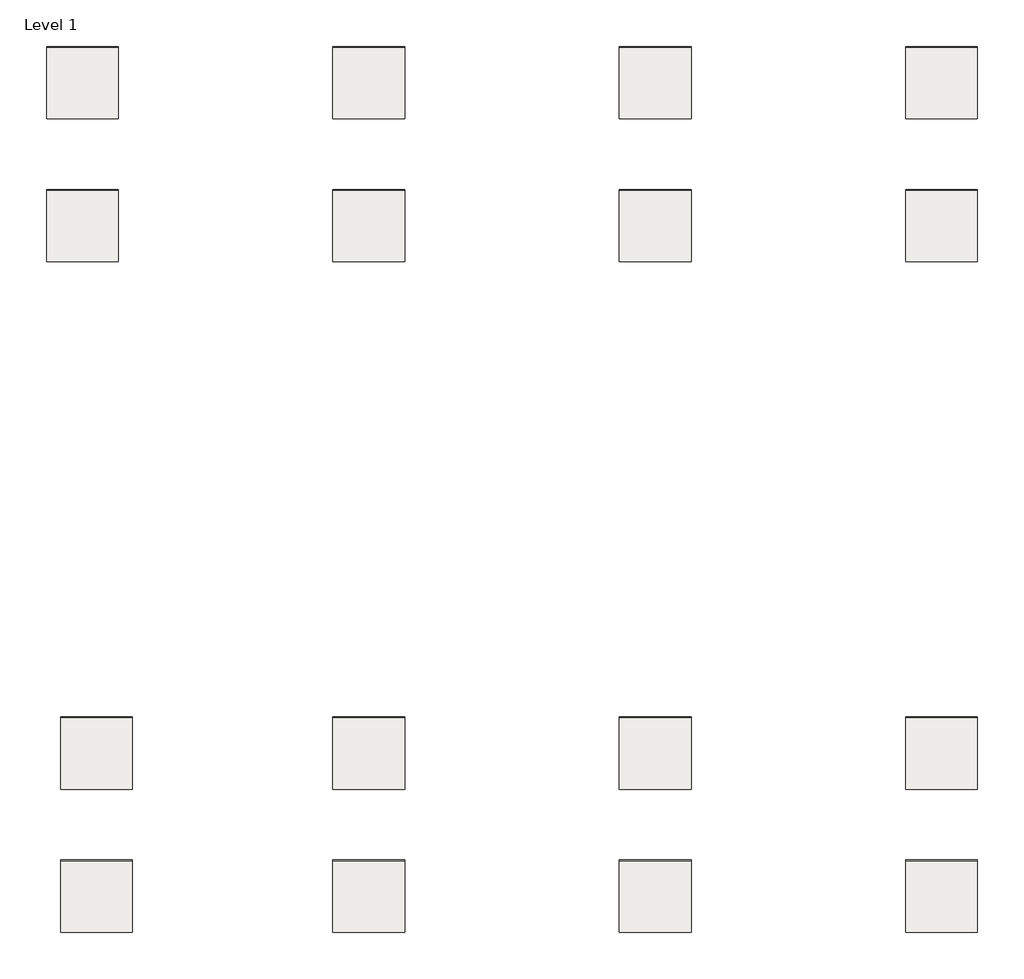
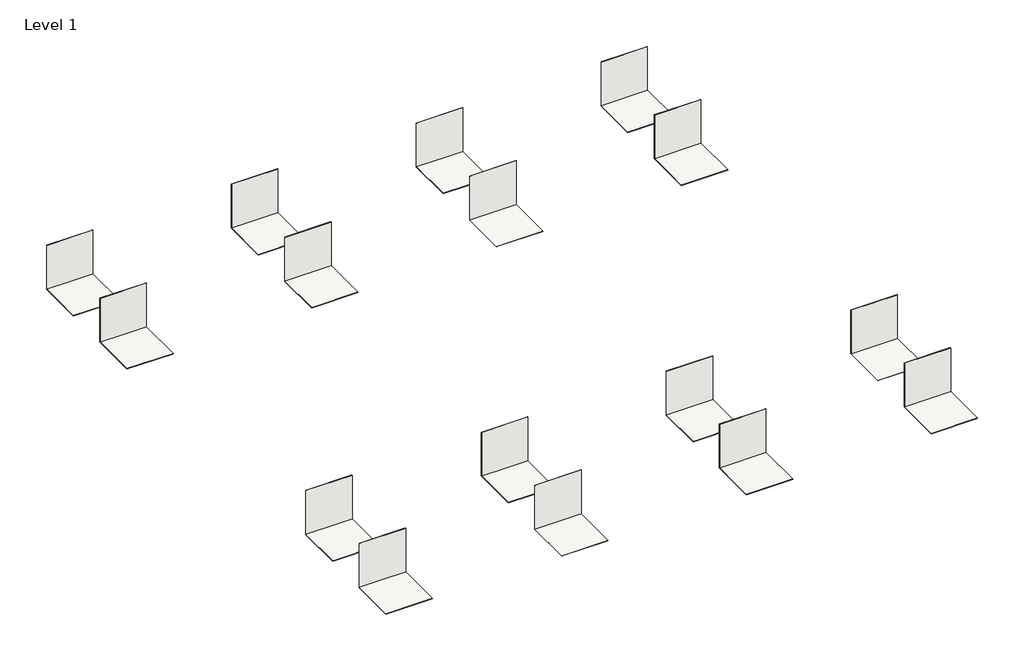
# One storey: 32 coverings.
"""IFC4 building model written with IfcOpenShell, lengths in millimetres."""

from ifc_helpers import new_model, si_unit, frame, origin, origin_with_axes, place, context, project, spatial, polyline, outline, extrude, element, save

model = new_model("IFC4")

# Units and contexts
model_context = context("Model", 3, world=origin())
ifc_project = project(units=[si_unit("LENGTHUNIT", "METRE", prefix="MILLI")], contexts=[model_context])

# Site, building, storey
site = spatial("IfcSite", under=ifc_project)
building = spatial("IfcBuilding", under=site)
storey = spatial("IfcBuildingStorey", under=building, Name="Level 1", Elevation=0.0)

# Coverings
placement = place(None, origin())
element("IfcCovering", 1, ObjectType="REVIGRES-ELEMENTS-BASE-59.2x59.2-SOFT-MIST", at=placement, inside=storey, context=model_context, shape_type="SweptSolid", body=[
    extrude(outline(polyline([(12778.642714, -3786.4559027), (11778.642714, -3786.4559027), (11778.642714, -3777.9559027), (12778.642714, -3777.9559027), (12778.642714, -3786.4559027)])), origin_with_axes(), (0.0, 0.0, 1.0), 1000.0),
])
element("IfcCovering", 2, ObjectType="REVIGRES-ELEMENTS-BASE-59.2x59.2-SOFT-MIST", at=placement, inside=storey, context=model_context, shape_type="SweptSolid", body=[
    extrude(outline(polyline([(12778.642714, -3786.4559027), (12778.642714, -4786.4559027), (11778.642714, -4786.4559027), (11778.642714, -3786.4559027), (12778.642714, -3786.4559027)])), frame((0.0, 0.0, -8.5), z_axis=(0.0, 0.0, 1.0), x_axis=(1.0, 0.0, 0.0)), (0.0, 0.0, 1.0), 8.5),
])
element("IfcCovering", 3, ObjectType="REVIGRES-ELEMENTS-BASE-59.2x59.2-SOFT-SMOKE", at=placement, inside=storey, context=model_context, shape_type="SweptSolid", body=[
    extrude(outline(polyline([(16778.642714, -3786.4559027), (15778.642714, -3786.4559027), (15778.642714, -3777.9559027), (16778.642714, -3777.9559027), (16778.642714, -3786.4559027)])), origin_with_axes(), (0.0, 0.0, 1.0), 1000.0),
])
element("IfcCovering", 4, ObjectType="REVIGRES-ELEMENTS-BASE-59.2x59.2-SOFT-SMOKE", at=placement, inside=storey, context=model_context, shape_type="SweptSolid", body=[
    extrude(outline(polyline([(16778.642714, -3786.4559027), (16778.642714, -4786.4559027), (15778.642714, -4786.4559027), (15778.642714, -3786.4559027), (16778.642714, -3786.4559027)])), frame((0.0, 0.0, -8.5), z_axis=(0.0, 0.0, 1.0), x_axis=(1.0, 0.0, 0.0)), (0.0, 0.0, 1.0), 8.5),
])
element("IfcCovering", 5, ObjectType="REVIGRES-ELEMENTS-BASE-88.9x88.9-SOFT-MIST", at=placement, inside=storey, context=model_context, shape_type="SweptSolid", body=[
    extrude(outline(polyline([(12778.642714, -5786.4559027), (11778.642714, -5786.4559027), (11778.642714, -5775.9559027), (12778.642714, -5775.9559027), (12778.642714, -5786.4559027)])), origin_with_axes(), (0.0, 0.0, 1.0), 1000.0),
])
element("IfcCovering", 6, ObjectType="REVIGRES-ELEMENTS-BASE-88.9x88.9-SOFT-MIST", at=placement, inside=storey, context=model_context, shape_type="SweptSolid", body=[
    extrude(outline(polyline([(12778.642714, -5786.4559027), (12778.642714, -6786.4559027), (11778.642714, -6786.4559027), (11778.642714, -5786.4559027), (12778.642714, -5786.4559027)])), frame((0.0, 0.0, -10.5), z_axis=(0.0, 0.0, 1.0), x_axis=(1.0, 0.0, 0.0)), (0.0, 0.0, 1.0), 10.5),
])
element("IfcCovering", 7, ObjectType="REVIGRES-ELEMENTS-BASE-88.9x88.9-SOFT-SMOKE", at=placement, inside=storey, context=model_context, shape_type="SweptSolid", body=[
    extrude(outline(polyline([(16778.642714, -5786.4559027), (15778.642714, -5786.4559027), (15778.642714, -5775.9559027), (16778.642714, -5775.9559027), (16778.642714, -5786.4559027)])), origin_with_axes(), (0.0, 0.0, 1.0), 1000.0),
])
element("IfcCovering", 8, ObjectType="REVIGRES-ELEMENTS-BASE-88.9x88.9-SOFT-SMOKE", at=placement, inside=storey, context=model_context, shape_type="SweptSolid", body=[
    extrude(outline(polyline([(16778.642714, -5786.4559027), (16778.642714, -6786.4559027), (15778.642714, -6786.4559027), (15778.642714, -5786.4559027), (16778.642714, -5786.4559027)])), frame((0.0, 0.0, -10.5), z_axis=(0.0, 0.0, 1.0), x_axis=(1.0, 0.0, 0.0)), (0.0, 0.0, 1.0), 10.5),
])
element("IfcCovering", 9, ObjectType="REVIGRES-ELEMENTS-BASE-59.2x59.2-ANTISLIPRECT-MIST", at=placement, inside=storey, context=model_context, shape_type="SweptSolid", body=[
    extrude(outline(polyline([(12778.642714, -13154.275145), (11778.642714, -13154.275145), (11778.642714, -13145.775145), (12778.642714, -13145.775145), (12778.642714, -13154.275145)])), origin_with_axes(), (0.0, 0.0, 1.0), 1000.0),
])
element("IfcCovering", 10, ObjectType="REVIGRES-ELEMENTS-BASE-59.2x59.2-ANTISLIPRECT-MIST", at=placement, inside=storey, context=model_context, shape_type="SweptSolid", body=[
    extrude(outline(polyline([(12778.642714, -13154.275145), (12778.642714, -14154.275145), (11778.642714, -14154.275145), (11778.642714, -13154.275145), (12778.642714, -13154.275145)])), frame((0.0, 0.0, -8.5), z_axis=(0.0, 0.0, 1.0), x_axis=(1.0, 0.0, 0.0)), (0.0, 0.0, 1.0), 8.5),
])
element("IfcCovering", 11, ObjectType="REVIGRES-ELEMENTS-BASE-59.2x59.2-ANTISLIPRECT-SMOKE", at=placement, inside=storey, context=model_context, shape_type="SweptSolid", body=[
    extrude(outline(polyline([(16778.642714, -13154.275145), (15778.642714, -13154.275145), (15778.642714, -13145.775145), (16778.642714, -13145.775145), (16778.642714, -13154.275145)])), origin_with_axes(), (0.0, 0.0, 1.0), 1000.0),
])
element("IfcCovering", 12, ObjectType="REVIGRES-ELEMENTS-BASE-59.2x59.2-ANTISLIPRECT-SMOKE", at=placement, inside=storey, context=model_context, shape_type="SweptSolid", body=[
    extrude(outline(polyline([(16778.642714, -13154.275145), (16778.642714, -14154.275145), (15778.642714, -14154.275145), (15778.642714, -13154.275145), (16778.642714, -13154.275145)])), frame((0.0, 0.0, -8.5), z_axis=(0.0, 0.0, 1.0), x_axis=(1.0, 0.0, 0.0)), (0.0, 0.0, 1.0), 8.5),
])
element("IfcCovering", 13, ObjectType="REVIGRES-ELEMENTS-BASE-88.9x88.9-ANTISLIPRECT-MIST", at=placement, inside=storey, context=model_context, shape_type="SweptSolid", body=[
    extrude(outline(polyline([(12778.642714, -15154.275145), (11778.642714, -15154.275145), (11778.642714, -15143.775145), (12778.642714, -15143.775145), (12778.642714, -15154.275145)])), origin_with_axes(), (0.0, 0.0, 1.0), 1000.0),
])
element("IfcCovering", 14, ObjectType="REVIGRES-ELEMENTS-BASE-88.9x88.9-ANTISLIPRECT-MIST", at=placement, inside=storey, context=model_context, shape_type="SweptSolid", body=[
    extrude(outline(polyline([(12778.642714, -15154.275145), (12778.642714, -16154.275145), (11778.642714, -16154.275145), (11778.642714, -15154.275145), (12778.642714, -15154.275145)])), frame((0.0, 0.0, -10.5), z_axis=(0.0, 0.0, 1.0), x_axis=(1.0, 0.0, 0.0)), (0.0, 0.0, 1.0), 10.5),
])
element("IfcCovering", 15, ObjectType="REVIGRES-ELEMENTS-BASE-88.9x88.9-ANTISLIPRECT-SMOKE", at=placement, inside=storey, context=model_context, shape_type="SweptSolid", body=[
    extrude(outline(polyline([(16778.642714, -15154.275145), (15778.642714, -15154.275145), (15778.642714, -15143.775145), (16778.642714, -15143.775145), (16778.642714, -15154.275145)])), origin_with_axes(), (0.0, 0.0, 1.0), 1000.0),
])
element("IfcCovering", 16, ObjectType="REVIGRES-ELEMENTS-BASE-88.9x88.9-ANTISLIPRECT-SMOKE", at=placement, inside=storey, context=model_context, shape_type="SweptSolid", body=[
    extrude(outline(polyline([(16778.642714, -15154.275145), (16778.642714, -16154.275145), (15778.642714, -16154.275145), (15778.642714, -15154.275145), (16778.642714, -15154.275145)])), frame((0.0, 0.0, -10.5), z_axis=(0.0, 0.0, 1.0), x_axis=(1.0, 0.0, 0.0)), (0.0, 0.0, 1.0), 10.5),
])
element("IfcCovering", 17, ObjectType="REVIGRES-ELEMENTS-BASE-59.2x59.2-SOFT-FOG", at=placement, inside=storey, context=model_context, shape_type="SweptSolid", body=[
    extrude(outline(polyline([(7778.642714, -3777.9559027), (8778.642714, -3777.9559027), (8778.642714, -3786.4559027), (7778.642714, -3786.4559027), (7778.642714, -3777.9559027)])), origin_with_axes(), (0.0, 0.0, 1.0), 1000.0),
])
element("IfcCovering", 18, ObjectType="REVIGRES-ELEMENTS-BASE-59.2x59.2-SOFT-FOG", at=placement, inside=storey, context=model_context, shape_type="SweptSolid", body=[
    extrude(outline(polyline([(7778.642714, -3786.4559027), (8778.642714, -3786.4559027), (8778.642714, -4786.4559027), (7778.642714, -4786.4559027), (7778.642714, -3786.4559027)])), frame((0.0, 0.0, -8.5), z_axis=(0.0, 0.0, 1.0), x_axis=(1.0, 0.0, 0.0)), (0.0, 0.0, 1.0), 8.5),
])
element("IfcCovering", 19, ObjectType="REVIGRES-ELEMENTS-BASE-59.2x59.2-SOFT-CARBON", at=placement, inside=storey, context=model_context, shape_type="SweptSolid", body=[
    extrude(outline(polyline([(3778.642714, -3777.9559027), (4778.642714, -3777.9559027), (4778.642714, -3786.4559027), (3778.642714, -3786.4559027), (3778.642714, -3777.9559027)])), origin_with_axes(), (0.0, 0.0, 1.0), 1000.0),
])
element("IfcCovering", 20, ObjectType="REVIGRES-ELEMENTS-BASE-59.2x59.2-SOFT-CARBON", at=placement, inside=storey, context=model_context, shape_type="SweptSolid", body=[
    extrude(outline(polyline([(3778.642714, -3786.4559027), (4778.642714, -3786.4559027), (4778.642714, -4786.4559027), (3778.642714, -4786.4559027), (3778.642714, -3786.4559027)])), frame((0.0, 0.0, -8.5), z_axis=(0.0, 0.0, 1.0), x_axis=(1.0, 0.0, 0.0)), (0.0, 0.0, 1.0), 8.5),
])
element("IfcCovering", 21, ObjectType="REVIGRES-ELEMENTS-BASE-88.9x88.9-SOFT-FOG", at=placement, inside=storey, context=model_context, shape_type="SweptSolid", body=[
    extrude(outline(polyline([(7778.642714, -5775.9559027), (8778.642714, -5775.9559027), (8778.642714, -5786.4559027), (7778.642714, -5786.4559027), (7778.642714, -5775.9559027)])), origin_with_axes(), (0.0, 0.0, 1.0), 1000.0),
])
element("IfcCovering", 22, ObjectType="REVIGRES-ELEMENTS-BASE-88.9x88.9-SOFT-FOG", at=placement, inside=storey, context=model_context, shape_type="SweptSolid", body=[
    extrude(outline(polyline([(7778.642714, -5786.4559027), (8778.642714, -5786.4559027), (8778.642714, -6786.4559027), (7778.642714, -6786.4559027), (7778.642714, -5786.4559027)])), frame((0.0, 0.0, -10.5), z_axis=(0.0, 0.0, 1.0), x_axis=(1.0, 0.0, 0.0)), (0.0, 0.0, 1.0), 10.5),
])
element("IfcCovering", 23, ObjectType="REVIGRES-ELEMENTS-BASE-88.9x88.9-SOFT-CARBON", at=placement, inside=storey, context=model_context, shape_type="SweptSolid", body=[
    extrude(outline(polyline([(3778.642714, -5775.9559027), (4778.642714, -5775.9559027), (4778.642714, -5786.4559027), (3778.642714, -5786.4559027), (3778.642714, -5775.9559027)])), origin_with_axes(), (0.0, 0.0, 1.0), 1000.0),
])
element("IfcCovering", 24, ObjectType="REVIGRES-ELEMENTS-BASE-88.9x88.9-SOFT-CARBON", at=placement, inside=storey, context=model_context, shape_type="SweptSolid", body=[
    extrude(outline(polyline([(3778.642714, -5786.4559027), (4778.642714, -5786.4559027), (4778.642714, -6786.4559027), (3778.642714, -6786.4559027), (3778.642714, -5786.4559027)])), frame((0.0, 0.0, -10.5), z_axis=(0.0, 0.0, 1.0), x_axis=(1.0, 0.0, 0.0)), (0.0, 0.0, 1.0), 10.5),
])
element("IfcCovering", 25, ObjectType="REVIGRES-ELEMENTS-BASE-59.2x59.2-ANTISLIPRECT-FOG", at=placement, inside=storey, context=model_context, shape_type="SweptSolid", body=[
    extrude(outline(polyline([(7778.642714, -13145.775145), (8778.642714, -13145.775145), (8778.642714, -13154.275145), (7778.642714, -13154.275145), (7778.642714, -13145.775145)])), origin_with_axes(), (0.0, 0.0, 1.0), 1000.0),
])
element("IfcCovering", 26, ObjectType="REVIGRES-ELEMENTS-BASE-59.2x59.2-ANTISLIPRECT-FOG", at=placement, inside=storey, context=model_context, shape_type="SweptSolid", body=[
    extrude(outline(polyline([(7778.642714, -13154.275145), (8778.642714, -13154.275145), (8778.642714, -14154.275145), (7778.642714, -14154.275145), (7778.642714, -13154.275145)])), frame((0.0, 0.0, -8.5), z_axis=(0.0, 0.0, 1.0), x_axis=(1.0, 0.0, 0.0)), (0.0, 0.0, 1.0), 8.5),
])
element("IfcCovering", 27, ObjectType="REVIGRES-ELEMENTS-BASE-59.2x59.2-ANTISLIPRECT-CARBON", at=placement, inside=storey, context=model_context, shape_type="SweptSolid", body=[
    extrude(outline(polyline([(3978.8899224, -13145.775145), (4978.8899224, -13145.775145), (4978.8899224, -13154.275145), (3978.8899224, -13154.275145), (3978.8899224, -13145.775145)])), origin_with_axes(), (0.0, 0.0, 1.0), 1000.0),
])
element("IfcCovering", 28, ObjectType="REVIGRES-ELEMENTS-BASE-59.2x59.2-ANTISLIPRECT-CARBON", at=placement, inside=storey, context=model_context, shape_type="SweptSolid", body=[
    extrude(outline(polyline([(3978.8899224, -13154.275145), (4978.8899224, -13154.275145), (4978.8899224, -14154.275145), (3978.8899224, -14154.275145), (3978.8899224, -13154.275145)])), frame((0.0, 0.0, -8.5), z_axis=(0.0, 0.0, 1.0), x_axis=(1.0, 0.0, 0.0)), (0.0, 0.0, 1.0), 8.5),
])
element("IfcCovering", 29, ObjectType="REVIGRES-ELEMENTS-BASE-88.9x88.9-ANTISLIPRECT-CARBON", at=placement, inside=storey, context=model_context, shape_type="SweptSolid", body=[
    extrude(outline(polyline([(3978.8899224, -15143.775145), (4978.8899224, -15143.775145), (4978.8899224, -15154.275145), (3978.8899224, -15154.275145), (3978.8899224, -15143.775145)])), origin_with_axes(), (0.0, 0.0, 1.0), 1000.0),
])
element("IfcCovering", 30, ObjectType="REVIGRES-ELEMENTS-BASE-88.9x88.9-ANTISLIPRECT-CARBON", at=placement, inside=storey, context=model_context, shape_type="SweptSolid", body=[
    extrude(outline(polyline([(3978.8899224, -15154.275145), (4978.8899224, -15154.275145), (4978.8899224, -16154.275145), (3978.8899224, -16154.275145), (3978.8899224, -15154.275145)])), frame((0.0, 0.0, -10.5), z_axis=(0.0, 0.0, 1.0), x_axis=(1.0, 0.0, 0.0)), (0.0, 0.0, 1.0), 10.5),
])
element("IfcCovering", 31, ObjectType="REVIGRES-ELEMENTS-BASE-88.9x88.9-ANTISLIPRECT-FOG", at=placement, inside=storey, context=model_context, shape_type="SweptSolid", body=[
    extrude(outline(polyline([(7778.642714, -15143.775145), (8778.642714, -15143.775145), (8778.642714, -15154.275145), (7778.642714, -15154.275145), (7778.642714, -15143.775145)])), origin_with_axes(), (0.0, 0.0, 1.0), 1000.0),
])
element("IfcCovering", 32, ObjectType="REVIGRES-ELEMENTS-BASE-88.9x88.9-ANTISLIPRECT-FOG", at=placement, inside=storey, context=model_context, shape_type="SweptSolid", body=[
    extrude(outline(polyline([(7778.642714, -15154.275145), (8778.642714, -15154.275145), (8778.642714, -16154.275145), (7778.642714, -16154.275145), (7778.642714, -15154.275145)])), frame((0.0, 0.0, -10.5), z_axis=(0.0, 0.0, 1.0), x_axis=(1.0, 0.0, 0.0)), (0.0, 0.0, 1.0), 10.5),
])

save(model, "model.ifc")
